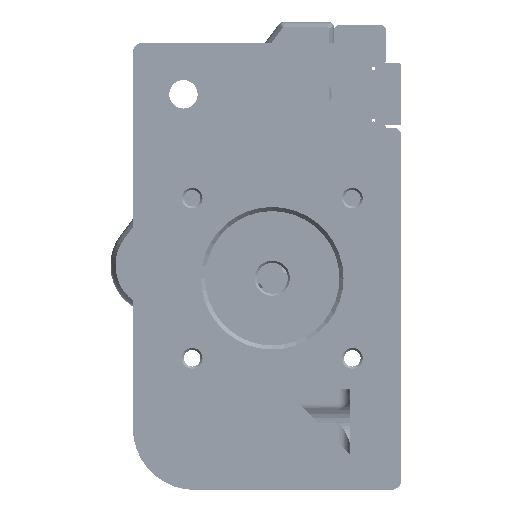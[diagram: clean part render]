
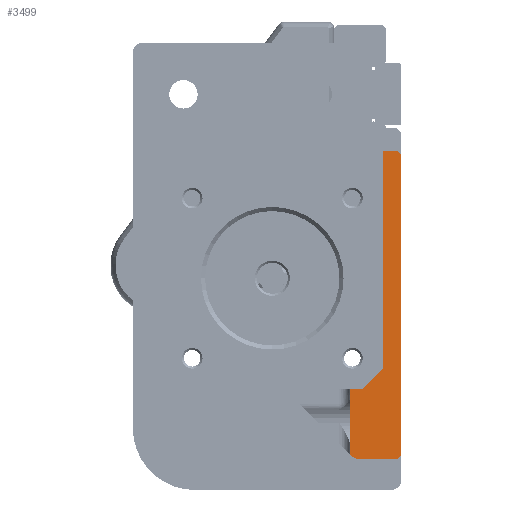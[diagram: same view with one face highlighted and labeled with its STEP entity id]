
A CAD part, front view. The second image highlights one B-rep face of the part: STEP entity #3499.
In plain terms, the highlighted planar face has unit normal (0, -1, 0) as drawn and (0, 0, 1) by its records, which use the part's own axes.
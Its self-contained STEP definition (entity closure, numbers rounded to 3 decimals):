
#4 = ORIENTED_EDGE ( 'NONE', *, *, #67552, .T. ) ;
#1571 = ORIENTED_EDGE ( 'NONE', *, *, #24877, .T. ) ;
#1690 = CARTESIAN_POINT ( 'NONE',  ( 15., -112.707, 18. ) ) ;
#2114 = LINE ( 'NONE', #30707, #84029 ) ;
#2823 = CARTESIAN_POINT ( 'NONE',  ( 24.2, -126.207, 18. ) ) ;
#3408 = EDGE_CURVE ( 'NONE', #41043, #31313, #66581, .T. ) ;
#3499 = ADVANCED_FACE ( 'NONE', ( #68389 ), #61919, .T. ) ;
#4184 = ORIENTED_EDGE ( 'NONE', *, *, #76303, .T. ) ;
#5743 = EDGE_CURVE ( 'NONE', #30985, #75774, #21673, .T. ) ;
#5929 = VECTOR ( 'NONE', #72591, 1000. ) ;
#6525 = VECTOR ( 'NONE', #27869, 1000. ) ;
#7487 = VERTEX_POINT ( 'NONE', #24910 ) ;
#11172 = VERTEX_POINT ( 'NONE', #26763 ) ;
#11550 = EDGE_CURVE ( 'NONE', #56711, #32707, #32234, .T. ) ;
#17278 = VECTOR ( 'NONE', #48764, 1000. ) ;
#17878 = ORIENTED_EDGE ( 'NONE', *, *, #77261, .F. ) ;
#18879 = ORIENTED_EDGE ( 'NONE', *, *, #11550, .F. ) ;
#21217 = DIRECTION ( 'NONE',  ( -0.707, -0.707, 0. ) ) ;
#21673 = LINE ( 'NONE', #42785, #49015 ) ;
#21977 = AXIS2_PLACEMENT_3D ( 'NONE', #68834, #53663, #39790 ) ;
#22226 = DIRECTION ( 'NONE',  ( 0.707, 0.707, 0. ) ) ;
#24317 = ORIENTED_EDGE ( 'NONE', *, *, #55385, .F. ) ;
#24877 = EDGE_CURVE ( 'NONE', #7487, #31313, #64894, .T. ) ;
#24910 = CARTESIAN_POINT ( 'NONE',  ( 15., -112.707, 18. ) ) ;
#25632 = EDGE_CURVE ( 'NONE', #27315, #56711, #33247, .T. ) ;
#26055 = CARTESIAN_POINT ( 'NONE',  ( 21.5, -112.707, 18. ) ) ;
#26763 = CARTESIAN_POINT ( 'NONE',  ( 17.5, -112.707, 18. ) ) ;
#27315 = VERTEX_POINT ( 'NONE', #42452 ) ;
#27767 = CARTESIAN_POINT ( 'NONE',  ( 17.5, -112.707, 18. ) ) ;
#27869 = DIRECTION ( 'NONE',  ( 0.707, -0.707, 0. ) ) ;
#28745 = CIRCLE ( 'NONE', #80338, 2. ) ;
#28881 = CARTESIAN_POINT ( 'NONE',  ( 21.5, -66.604, 18. ) ) ;
#30707 = CARTESIAN_POINT ( 'NONE',  ( 25., -91.207, 18. ) ) ;
#30985 = VERTEX_POINT ( 'NONE', #43164 ) ;
#31313 = VERTEX_POINT ( 'NONE', #60501 ) ;
#31831 = VECTOR ( 'NONE', #21217, 1000. ) ;
#32234 = LINE ( 'NONE', #60373, #78613 ) ;
#32707 = VERTEX_POINT ( 'NONE', #51419 ) ;
#33247 = LINE ( 'NONE', #84386, #31831 ) ;
#34368 = CARTESIAN_POINT ( 'NONE',  ( 24.402, -66.806, 18. ) ) ;
#36493 = LINE ( 'NONE', #58194, #82987 ) ;
#39790 = DIRECTION ( 'NONE',  ( 1., 0., 0. ) ) ;
#41043 = VERTEX_POINT ( 'NONE', #87460 ) ;
#41919 = EDGE_CURVE ( 'NONE', #11172, #89539, #85861, .T. ) ;
#42452 = CARTESIAN_POINT ( 'NONE',  ( 25., -125.407, 18. ) ) ;
#42785 = CARTESIAN_POINT ( 'NONE',  ( 25., -66.604, 18. ) ) ;
#43164 = CARTESIAN_POINT ( 'NONE',  ( 24.2, -66.604, 18. ) ) ;
#44467 = CARTESIAN_POINT ( 'NONE',  ( 17., -127.207, 18. ) ) ;
#44537 = DIRECTION ( 'NONE',  ( 0., -1., 0. ) ) ;
#45440 = CARTESIAN_POINT ( 'NONE',  ( 21.5, -108.707, 18. ) ) ;
#48764 = DIRECTION ( 'NONE',  ( 0., -1., 0. ) ) ;
#49015 = VECTOR ( 'NONE', #49345, 1000. ) ;
#49345 = DIRECTION ( 'NONE',  ( -1., 0., 0. ) ) ;
#51419 = CARTESIAN_POINT ( 'NONE',  ( 16.828, -126.207, 18. ) ) ;
#51468 = DIRECTION ( 'NONE',  ( 0., 0., -1. ) ) ;
#53663 = DIRECTION ( 'NONE',  ( 0., 0., 1. ) ) ;
#54668 = LINE ( 'NONE', #26055, #87344 ) ;
#55385 = EDGE_CURVE ( 'NONE', #32707, #41043, #28745, .T. ) ;
#56328 = VERTEX_POINT ( 'NONE', #87780 ) ;
#56711 = VERTEX_POINT ( 'NONE', #2823 ) ;
#58194 = CARTESIAN_POINT ( 'NONE',  ( -21.5, -112.707, 18. ) ) ;
#60373 = CARTESIAN_POINT ( 'NONE',  ( 0., -126.207, 18. ) ) ;
#60501 = CARTESIAN_POINT ( 'NONE',  ( 15., -125.207, 18. ) ) ;
#60769 = VECTOR ( 'NONE', #22226, 1000. ) ;
#61919 = PLANE ( 'NONE',  #21977 ) ;
#62121 = EDGE_CURVE ( 'NONE', #56328, #27315, #2114, .T. ) ;
#64894 = LINE ( 'NONE', #1690, #17278 ) ;
#65121 = ORIENTED_EDGE ( 'NONE', *, *, #62121, .F. ) ;
#66581 = LINE ( 'NONE', #44467, #5929 ) ;
#67552 = EDGE_CURVE ( 'NONE', #75774, #89539, #54668, .T. ) ;
#68389 = FACE_OUTER_BOUND ( 'NONE', #82184, .T. ) ;
#68834 = CARTESIAN_POINT ( 'NONE',  ( 0., -91.207, 18. ) ) ;
#72591 = DIRECTION ( 'NONE',  ( -0.707, 0.707, 0. ) ) ;
#73710 = ORIENTED_EDGE ( 'NONE', *, *, #3408, .F. ) ;
#75677 = ORIENTED_EDGE ( 'NONE', *, *, #5743, .T. ) ;
#75774 = VERTEX_POINT ( 'NONE', #28881 ) ;
#76303 = EDGE_CURVE ( 'NONE', #11172, #7487, #36493, .T. ) ;
#76788 = LINE ( 'NONE', #34368, #6525 ) ;
#76880 = ORIENTED_EDGE ( 'NONE', *, *, #25632, .F. ) ;
#77261 = EDGE_CURVE ( 'NONE', #30985, #56328, #76788, .T. ) ;
#78613 = VECTOR ( 'NONE', #88503, 1000. ) ;
#79169 = CARTESIAN_POINT ( 'NONE',  ( 16.828, -124.207, 18. ) ) ;
#80082 = DIRECTION ( 'NONE',  ( 1., 0., 0. ) ) ;
#80338 = AXIS2_PLACEMENT_3D ( 'NONE', #79169, #51468, #80082 ) ;
#82184 = EDGE_LOOP ( 'NONE', ( #75677, #4, #89879, #4184, #1571, #73710, #24317, #18879, #76880, #65121, #17878 ) ) ;
#82337 = DIRECTION ( 'NONE',  ( 0., -1., 0. ) ) ;
#82987 = VECTOR ( 'NONE', #86297, 1000. ) ;
#84029 = VECTOR ( 'NONE', #44537, 1000. ) ;
#84386 = CARTESIAN_POINT ( 'NONE',  ( 29.6, -120.807, 18. ) ) ;
#85861 = LINE ( 'NONE', #27767, #60769 ) ;
#86297 = DIRECTION ( 'NONE',  ( -1., 0., 0. ) ) ;
#87344 = VECTOR ( 'NONE', #82337, 1000. ) ;
#87460 = CARTESIAN_POINT ( 'NONE',  ( 15.414, -125.622, 18. ) ) ;
#87780 = CARTESIAN_POINT ( 'NONE',  ( 25., -67.404, 18. ) ) ;
#88503 = DIRECTION ( 'NONE',  ( -1., 0., 0. ) ) ;
#89539 = VERTEX_POINT ( 'NONE', #45440 ) ;
#89879 = ORIENTED_EDGE ( 'NONE', *, *, #41919, .F. ) ;
